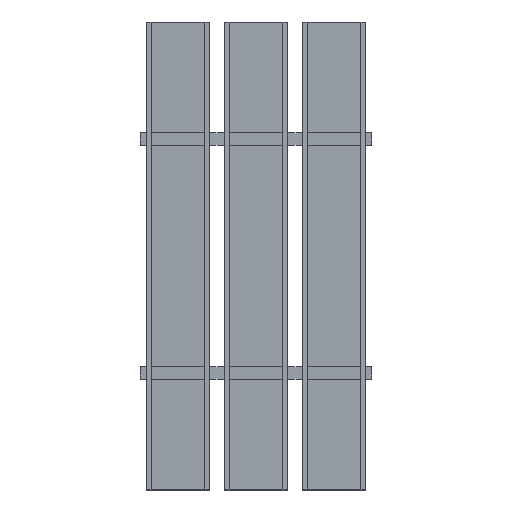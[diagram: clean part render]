
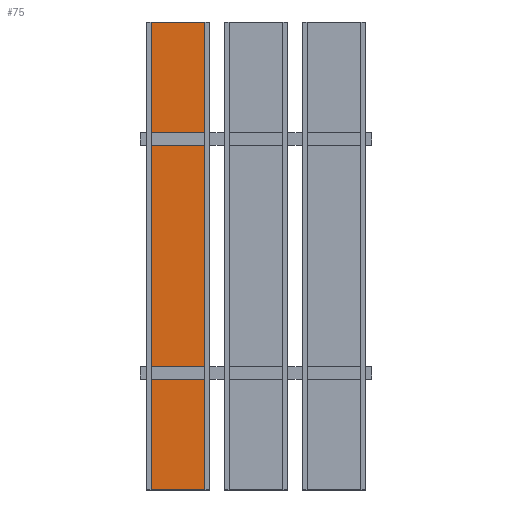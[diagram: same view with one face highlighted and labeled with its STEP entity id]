
A CAD part, top view. The second image highlights one B-rep face of the part: STEP entity #75.
In plain terms, the highlighted planar face has unit normal (0, 0, 1).
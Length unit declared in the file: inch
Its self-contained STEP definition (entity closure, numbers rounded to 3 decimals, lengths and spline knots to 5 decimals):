
#75=ADVANCED_FACE('',(#165),#1489,.T.);
#165=FACE_OUTER_BOUND('',#263,.T.);
#263=EDGE_LOOP('',(#516,#517,#518,#519));
#516=ORIENTED_EDGE('',*,*,#914,.F.);
#517=ORIENTED_EDGE('',*,*,#934,.T.);
#518=ORIENTED_EDGE('',*,*,#920,.F.);
#519=ORIENTED_EDGE('',*,*,#931,.F.);
#914=EDGE_CURVE('',#1366,#1367,#1154,.T.);
#920=EDGE_CURVE('',#1372,#1373,#1160,.T.);
#931=EDGE_CURVE('',#1367,#1372,#1171,.T.);
#934=EDGE_CURVE('',#1366,#1373,#1174,.T.);
#1154=B_SPLINE_CURVE_WITH_KNOTS('',1,(#2273,#2274),.UNSPECIFIED.,.F.,.F.,
(2,2),(0.,48.),.UNSPECIFIED.);
#1160=B_SPLINE_CURVE_WITH_KNOTS('',1,(#2285,#2286),.UNSPECIFIED.,.F.,.F.,
(2,2),(0.,48.),.UNSPECIFIED.);
#1171=B_SPLINE_CURVE_WITH_KNOTS('',1,(#2307,#2308),.UNSPECIFIED.,.F.,.F.,
(2,2),(0.,5.5),.UNSPECIFIED.);
#1174=B_SPLINE_CURVE_WITH_KNOTS('',1,(#2313,#2314),.UNSPECIFIED.,.F.,.F.,
(2,2),(0.,5.5),.UNSPECIFIED.);
#1366=VERTEX_POINT('',#1983);
#1367=VERTEX_POINT('',#1984);
#1372=VERTEX_POINT('',#1989);
#1373=VERTEX_POINT('',#1990);
#1489=PLANE('',#1670);
#1670=AXIS2_PLACEMENT_3D('',#1856,#1763,$);
#1763=DIRECTION('',(0.,0.,1.));
#1856=CARTESIAN_POINT('',(-12.69528,28.80472,-1.));
#1983=CARTESIAN_POINT('',(-18.75,-24.,-1.));
#1984=CARTESIAN_POINT('',(-18.75,24.,-1.));
#1989=CARTESIAN_POINT('',(-13.25,24.,-1.));
#1990=CARTESIAN_POINT('',(-13.25,-24.,-1.));
#2273=CARTESIAN_POINT('',(-18.75,-24.,-1.));
#2274=CARTESIAN_POINT('',(-18.75,24.,-1.));
#2285=CARTESIAN_POINT('',(-13.25,24.,-1.));
#2286=CARTESIAN_POINT('',(-13.25,-24.,-1.));
#2307=CARTESIAN_POINT('',(-18.75,24.,-1.));
#2308=CARTESIAN_POINT('',(-13.25,24.,-1.));
#2313=CARTESIAN_POINT('',(-18.75,-24.,-1.));
#2314=CARTESIAN_POINT('',(-13.25,-24.,-1.));
